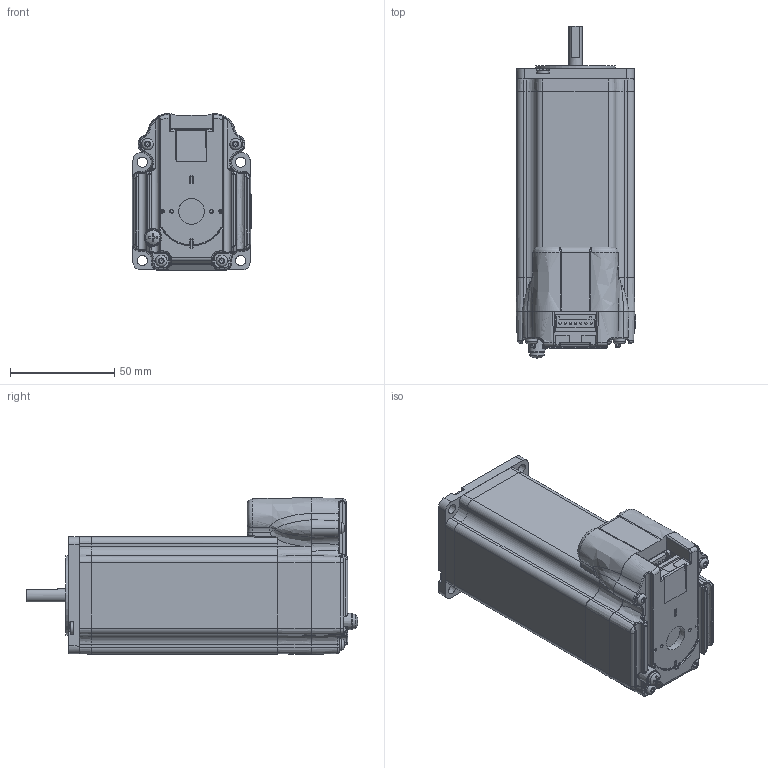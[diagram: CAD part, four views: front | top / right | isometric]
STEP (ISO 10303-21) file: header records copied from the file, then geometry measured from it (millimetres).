
FILE_DESCRIPTION(('MDrive23Plus, Quad-Stack, P1 (IO PWR) and P2 (RD or RL 10-Pin).stp'),'1');
FILE_NAME('T:/Kubotek Models For Design Assemblies/3D Step File Models Posted on-line/MDrive23 Hybrid/Motion Control and Step, Torque, Speed/MDrive23Plus, Quad-Stack, P1 (IO PWR) and P2 (RD or RL 10-Pin).stp', '2016-06-23T14:12:19',('P. Bordua, 06/23/16'), ('Kubotek USA, Inc.'), 'KCM Version 1.1.1406.0', 'Kubotek KeyCreator', 'KC');
FILE_SCHEMA(('AUTOMOTIVE_DESIGN'));
Length unit declared in the file: inch
Bounding box: 57.34 x 159.18 x 75.2 mm (x, y, z)
Volume: 408111 mm3; surface area: 48223.8 mm2
Topology: 2 solids, 2 shells, 877 faces, 2191 edges, 1332 vertices
Faces by surface type: plane 304, bspline 244, cylinder 219, cone 52, sphere 41, torus 17
Full cylindrical faces by diameter (mm): 1.041 x7, 5.563 x4, 5.6 x4, 6.35 x1, 6.858 x1, 7.62 x1, 8.001 x1, 10.16 x1, 38.1 x1
Entity records: 51370 total; most frequent: CARTESIAN_POINT 30315, ORIENTED_EDGE 4322, DIRECTION 3394, EDGE_CURVE 2161, VERTEX_POINT 1332, AXIS2_PLACEMENT_3D 1280, EDGE_LOOP 929, FACE_OUTER_BOUND 877
